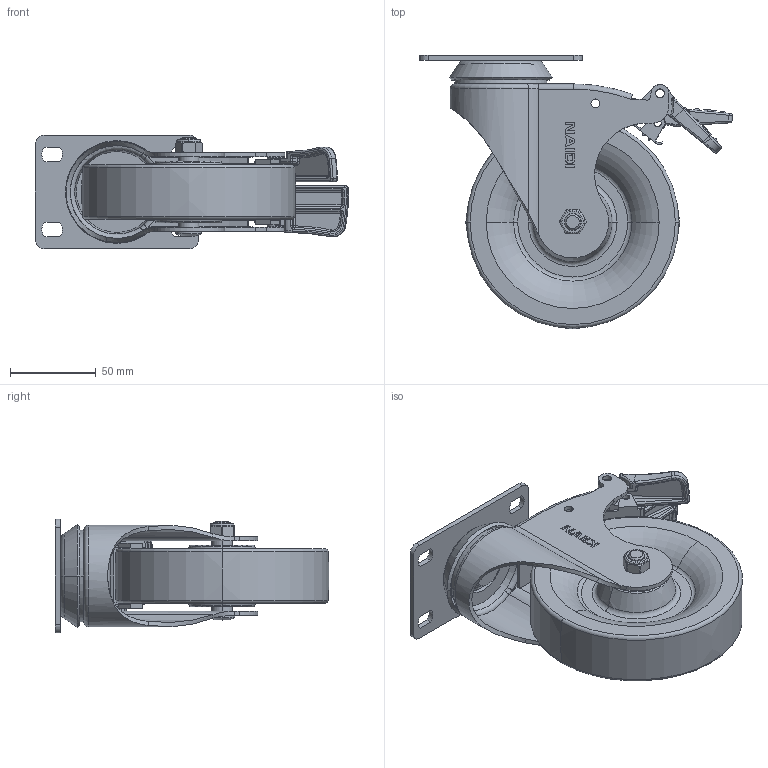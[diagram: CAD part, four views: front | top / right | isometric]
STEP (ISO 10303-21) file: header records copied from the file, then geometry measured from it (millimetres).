
FILE_DESCRIPTION((''),'2;1');
FILE_NAME('B55125_ASM','2024-08-13T',('Lenovo'),(''),'PRO/ENGINEER BY PARAMETRIC TECHNOLOGY CORPORATION, 2010280','PRO/ENGINEER BY PARAMETRIC TECHNOLOGY CORPORATION, 2010280','');
FILE_SCHEMA(('CONFIG_CONTROL_DESIGN'));
Length unit declared in the file: millimetre
Products named in the file (12): B555-321; 570-01; 570-03A; 500-31; B555-986; 500-54; 570-33; 570-34; AA; BB; B555-401; B55125_ASM
Assembly tree (11 placements, depth 2):
  B55125_ASM
    B555-321
    570-01
    570-03A
    500-31
    B555-986
    500-54
    570-33
    570-34
    AA
    BB
    B555-401
Bounding box: 182.8 x 159.94 x 66.5 mm (x, y, z)
Volume: 411159.8 mm3; surface area: 128622.9 mm2
Topology: 11 solids, 11 shells, 863 faces, 2105 edges, 1275 vertices
Faces by surface type: cylinder 298, plane 278, bspline 93, torus 88, cone 58, sphere 48
Entity records: 29659 total; most frequent: CARTESIAN_POINT 9493, DIRECTION 4189, ORIENTED_EDGE 4174, EDGE_CURVE 2087, AXIS2_PLACEMENT_3D 1617, VERTEX_POINT 1275, VECTOR 955, LINE 955
